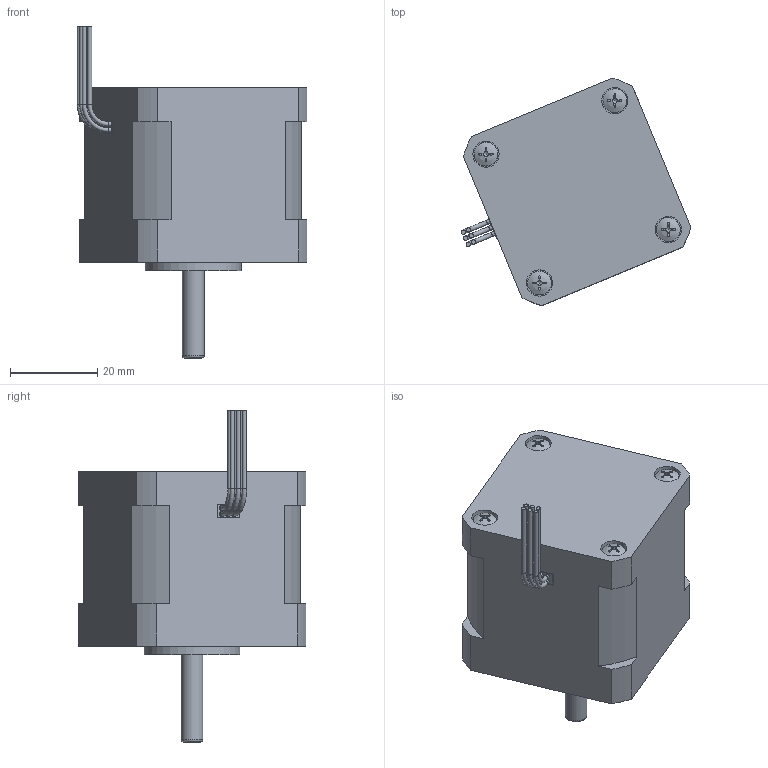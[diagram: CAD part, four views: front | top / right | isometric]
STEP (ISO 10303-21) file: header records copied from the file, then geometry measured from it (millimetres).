
FILE_DESCRIPTION(/* description */ (''),/* implementation_level */ '2;1');
FILE_NAME(/* name */ 'JK42HS40-0406-01.step',/* time_stamp */ '2021-06-12T12:54:05+08:00',/* author */ (''),/* organization */ (''),/* preprocessor_version */ 'ST-DEVELOPER v15',/* originating_system */ 'SIEMENS PLM Software NX 10.0',/* authorisation */ '');
FILE_SCHEMA (('AUTOMOTIVE_DESIGN { 1 0 10303 214 3 1 1 1 }'));
Products named in the file (3): M3-luoding; dianjizhuti; JK42HS48-1206
Assembly tree (5 placements, depth 2):
  JK42HS48-1206
    dianjizhuti
    M3-luoding  x4
Bounding box: 52.75 x 52.22 x 76.15 mm (x, y, z)
Volume: 68781.7 mm3; surface area: 13776 mm2
Topology: 17 solids, 17 shells, 272 faces, 643 edges, 416 vertices
Faces by surface type: plane 129, cylinder 66, cone 32, torus 29, bspline 12, sphere 4
Full cylindrical faces by diameter (mm): 1 x16, 2.458 x4, 2.459 x4, 2.675 x4, 3 x4, 3.5 x4, 5 x1, 5.45 x4, 6 x4, 22.03 x1
Entity records: 41722 total; most frequent: CARTESIAN_POINT 38414, DIRECTION 638, ORIENTED_EDGE 586, EDGE_CURVE 293, AXIS2_PLACEMENT_3D 277, EDGE_LOOP 220, VERTEX_POINT 218, ADVANCED_FACE 158
